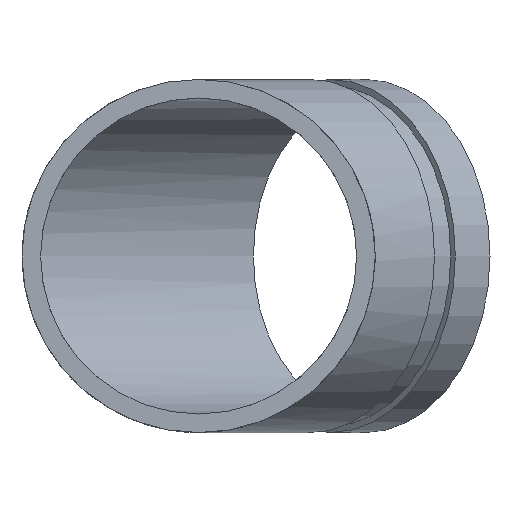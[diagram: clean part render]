
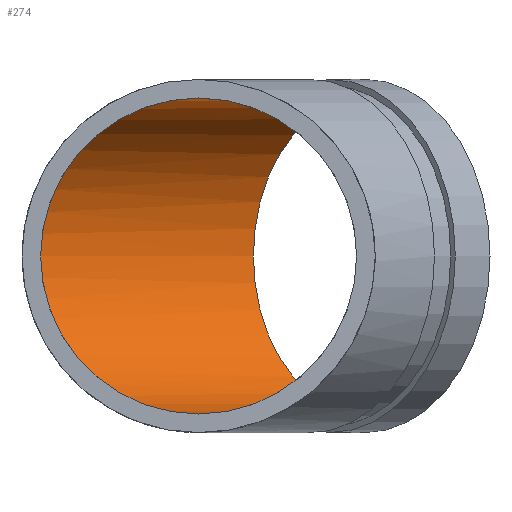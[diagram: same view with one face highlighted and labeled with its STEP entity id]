
A CAD part, front view. The second image highlights one B-rep face of the part: STEP entity #274.
In plain terms, the highlighted cylindrical face has radius 51.13 mm (diameter 102.26 mm), a full revolution.
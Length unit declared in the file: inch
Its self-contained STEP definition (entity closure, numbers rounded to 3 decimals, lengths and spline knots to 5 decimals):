
#45=ELLIPSE('',#322,2.17886,2.013);
#46=ELLIPSE('',#323,2.17886,2.013);
#47=ELLIPSE('',#324,2.17886,2.013);
#72=FACE_OUTER_BOUND('',#90,.T.);
#90=EDGE_LOOP('',(#219,#220,#221,#222,#223,#224));
#102=LINE('',#510,#110);
#110=VECTOR('',#413,2.013);
#128=CIRCLE('',#327,2.013);
#143=VERTEX_POINT('',#498);
#144=VERTEX_POINT('',#499);
#145=VERTEX_POINT('',#501);
#147=VERTEX_POINT('',#508);
#169=EDGE_CURVE('',#143,#144,#45,.T.);
#170=EDGE_CURVE('',#143,#145,#46,.T.);
#171=EDGE_CURVE('',#144,#145,#47,.T.);
#174=EDGE_CURVE('',#147,#147,#128,.T.);
#175=EDGE_CURVE('',#147,#144,#102,.T.);
#219=ORIENTED_EDGE('',*,*,#174,.F.);
#220=ORIENTED_EDGE('',*,*,#175,.T.);
#221=ORIENTED_EDGE('',*,*,#171,.T.);
#222=ORIENTED_EDGE('',*,*,#170,.F.);
#223=ORIENTED_EDGE('',*,*,#169,.T.);
#224=ORIENTED_EDGE('',*,*,#175,.F.);
#246=CYLINDRICAL_SURFACE('',#326,2.013);
#274=ADVANCED_FACE('',(#72),#246,.F.);
#322=AXIS2_PLACEMENT_3D('',#500,#400,#401);
#323=AXIS2_PLACEMENT_3D('',#502,#402,#403);
#324=AXIS2_PLACEMENT_3D('',#503,#404,#405);
#326=AXIS2_PLACEMENT_3D('',#507,#409,#410);
#327=AXIS2_PLACEMENT_3D('',#509,#411,#412);
#400=DIRECTION('center_axis',(-0.383,-0.924,0.));
#401=DIRECTION('ref_axis',(0.924,-0.383,0.));
#402=DIRECTION('center_axis',(0.383,0.924,0.));
#403=DIRECTION('ref_axis',(0.924,-0.383,0.));
#404=DIRECTION('center_axis',(-0.383,-0.924,0.));
#405=DIRECTION('ref_axis',(0.924,-0.383,0.));
#409=DIRECTION('center_axis',(-0.707,-0.707,0.));
#410=DIRECTION('ref_axis',(0.707,-0.707,0.));
#411=DIRECTION('center_axis',(-0.707,-0.707,0.));
#412=DIRECTION('ref_axis',(0.707,-0.707,0.));
#413=DIRECTION('',(-0.707,-0.707,0.));
#498=CARTESIAN_POINT('',(0.,0.,2.013));
#499=CARTESIAN_POINT('',(-2.013,0.83381,0.));
#500=CARTESIAN_POINT('Origin',(0.,0.,0.));
#501=CARTESIAN_POINT('',(0.,0.,-2.013));
#502=CARTESIAN_POINT('Origin',(0.,0.,0.));
#503=CARTESIAN_POINT('Origin',(0.,0.,0.));
#507=CARTESIAN_POINT('Origin',(2.12132,2.12132,0.));
#508=CARTESIAN_POINT('',(0.69791,3.54473,0.));
#509=CARTESIAN_POINT('Origin',(2.12132,2.12132,0.));
#510=CARTESIAN_POINT('',(0.69791,3.54473,0.));
